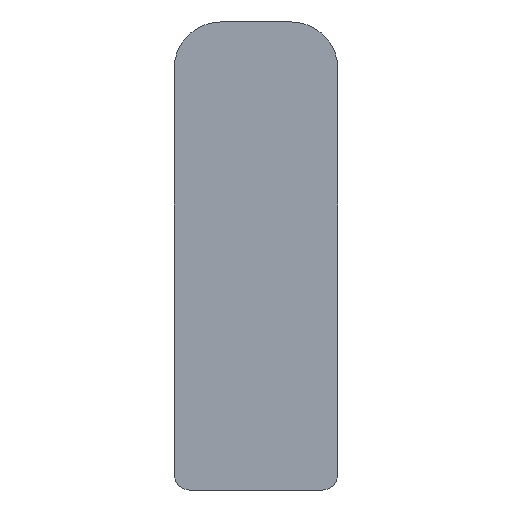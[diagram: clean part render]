
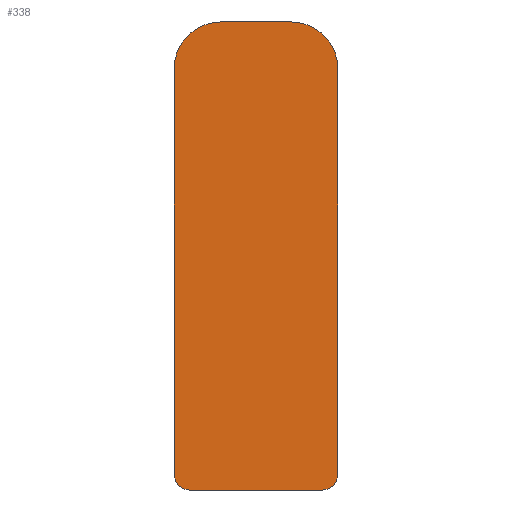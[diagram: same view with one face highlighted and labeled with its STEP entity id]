
A CAD part, left-side view. The second image highlights one B-rep face of the part: STEP entity #338.
In plain terms, the highlighted planar face has unit normal (-1, 0, 0).
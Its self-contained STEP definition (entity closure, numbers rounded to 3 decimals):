
#3 = ORIENTED_EDGE ( 'NONE', *, *, #128, .T. ) ;
#8 = ORIENTED_EDGE ( 'NONE', *, *, #133, .T. ) ;
#9 = ORIENTED_EDGE ( 'NONE', *, *, #131, .T. ) ;
#16 = CIRCLE ( 'NONE', #106, 3. ) ;
#20 = VECTOR ( 'NONE', #325, 1000. ) ;
#26 = EDGE_LOOP ( 'NONE', ( #79, #80, #81, #82, #83, #3, #9, #8 ) ) ;
#31 = LINE ( 'NONE', #327, #20 ) ;
#37 = CIRCLE ( 'NONE', #108, 3. ) ;
#42 = VECTOR ( 'NONE', #247, 1000. ) ;
#43 = LINE ( 'NONE', #275, #42 ) ;
#79 = ORIENTED_EDGE ( 'NONE', *, *, #113, .T. ) ;
#80 = ORIENTED_EDGE ( 'NONE', *, *, #117, .T. ) ;
#81 = ORIENTED_EDGE ( 'NONE', *, *, #120, .T. ) ;
#82 = ORIENTED_EDGE ( 'NONE', *, *, #110, .T. ) ;
#83 = ORIENTED_EDGE ( 'NONE', *, *, #125, .T. ) ;
#94 = AXIS2_PLACEMENT_3D ( 'NONE', #220, #219, #218 ) ;
#102 = AXIS2_PLACEMENT_3D ( 'NONE', #280, #279, #278 ) ;
#104 = AXIS2_PLACEMENT_3D ( 'NONE', #300, #298, #297 ) ;
#106 = AXIS2_PLACEMENT_3D ( 'NONE', #317, #315, #314 ) ;
#108 = AXIS2_PLACEMENT_3D ( 'NONE', #217, #212, #207 ) ;
#110 = EDGE_CURVE ( 'NONE', #277, #309, #43, .T. ) ;
#113 = EDGE_CURVE ( 'NONE', #306, #312, #37, .T. ) ;
#117 = EDGE_CURVE ( 'NONE', #312, #316, #31, .T. ) ;
#120 = EDGE_CURVE ( 'NONE', #316, #277, #16, .T. ) ;
#125 = EDGE_CURVE ( 'NONE', #309, #329, #164, .T. ) ;
#128 = EDGE_CURVE ( 'NONE', #329, #321, #159, .T. ) ;
#131 = EDGE_CURVE ( 'NONE', #321, #292, #175, .T. ) ;
#133 = EDGE_CURVE ( 'NONE', #292, #306, #173, .T. ) ;
#151 = FACE_OUTER_BOUND ( 'NONE', #26, .T. ) ;
#159 = LINE ( 'NONE', #290, #161 ) ;
#161 = VECTOR ( 'NONE', #288, 1000. ) ;
#164 = CIRCLE ( 'NONE', #104, 1. ) ;
#172 = VECTOR ( 'NONE', #272, 1000. ) ;
#173 = LINE ( 'NONE', #273, #172 ) ;
#175 = CIRCLE ( 'NONE', #102, 1. ) ;
#207 = DIRECTION ( 'NONE',  ( 0., 0., 1. ) ) ;
#212 = DIRECTION ( 'NONE',  ( -1., 0., 0. ) ) ;
#217 = CARTESIAN_POINT ( 'NONE',  ( -553.25, -2.25, 27. ) ) ;
#218 = DIRECTION ( 'NONE',  ( 0., 0., 1. ) ) ;
#219 = DIRECTION ( 'NONE',  ( -1., 0., 0. ) ) ;
#220 = CARTESIAN_POINT ( 'NONE',  ( -553.25, -2.25, 27. ) ) ;
#222 = PLANE ( 'NONE',  #94 ) ;
#247 = DIRECTION ( 'NONE',  ( 0., 0., -1. ) ) ;
#248 = CARTESIAN_POINT ( 'NONE',  ( -553.25, 4.25, 0. ) ) ;
#250 = CARTESIAN_POINT ( 'NONE',  ( -553.25, -4.25, 0. ) ) ;
#252 = CARTESIAN_POINT ( 'NONE',  ( -553.25, 2.25, 30. ) ) ;
#253 = CARTESIAN_POINT ( 'NONE',  ( -553.25, -2.25, 30. ) ) ;
#254 = CARTESIAN_POINT ( 'NONE',  ( -553.25, 5.25, 1. ) ) ;
#255 = CARTESIAN_POINT ( 'NONE',  ( -553.25, -5.25, 27. ) ) ;
#259 = CARTESIAN_POINT ( 'NONE',  ( -553.25, -5.25, 1. ) ) ;
#263 = CARTESIAN_POINT ( 'NONE',  ( -553.25, 5.25, 27. ) ) ;
#272 = DIRECTION ( 'NONE',  ( 0., 0., 1. ) ) ;
#273 = CARTESIAN_POINT ( 'NONE',  ( -553.25, -5.25, 1. ) ) ;
#275 = CARTESIAN_POINT ( 'NONE',  ( -553.25, 5.25, 1. ) ) ;
#277 = VERTEX_POINT ( 'NONE', #263 ) ;
#278 = DIRECTION ( 'NONE',  ( 0., 0., -1. ) ) ;
#279 = DIRECTION ( 'NONE',  ( -1., 0., 0. ) ) ;
#280 = CARTESIAN_POINT ( 'NONE',  ( -553.25, -4.25, 1. ) ) ;
#288 = DIRECTION ( 'NONE',  ( 0., -1., 0. ) ) ;
#290 = CARTESIAN_POINT ( 'NONE',  ( -553.25, -4.25, 0. ) ) ;
#292 = VERTEX_POINT ( 'NONE', #259 ) ;
#297 = DIRECTION ( 'NONE',  ( 0., 0., -1. ) ) ;
#298 = DIRECTION ( 'NONE',  ( -1., 0., 0. ) ) ;
#300 = CARTESIAN_POINT ( 'NONE',  ( -553.25, 4.25, 1. ) ) ;
#306 = VERTEX_POINT ( 'NONE', #255 ) ;
#309 = VERTEX_POINT ( 'NONE', #254 ) ;
#312 = VERTEX_POINT ( 'NONE', #253 ) ;
#314 = DIRECTION ( 'NONE',  ( 0., 0., -1. ) ) ;
#315 = DIRECTION ( 'NONE',  ( -1., 0., 0. ) ) ;
#316 = VERTEX_POINT ( 'NONE', #252 ) ;
#317 = CARTESIAN_POINT ( 'NONE',  ( -553.25, 2.25, 27. ) ) ;
#321 = VERTEX_POINT ( 'NONE', #250 ) ;
#325 = DIRECTION ( 'NONE',  ( 0., 1., 0. ) ) ;
#327 = CARTESIAN_POINT ( 'NONE',  ( -553.25, -2.25, 30. ) ) ;
#329 = VERTEX_POINT ( 'NONE', #248 ) ;
#338 = ADVANCED_FACE ( 'NONE', ( #151 ), #222, .T. ) ;
